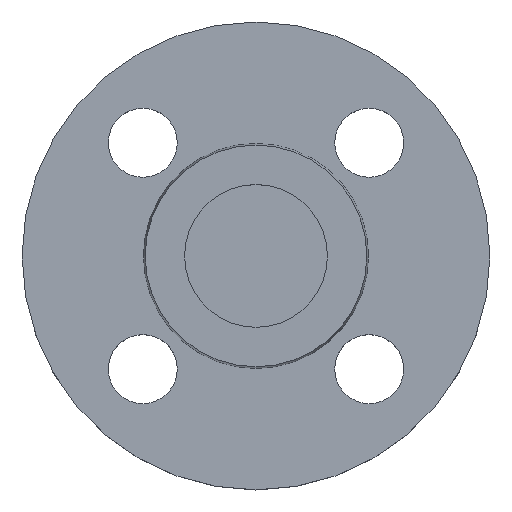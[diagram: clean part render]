
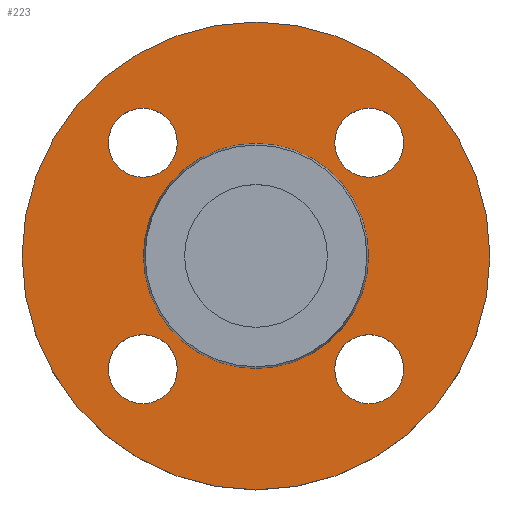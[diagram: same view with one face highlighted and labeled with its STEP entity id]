
A CAD part, top view. The second image highlights one B-rep face of the part: STEP entity #223.
In plain terms, the highlighted planar face has unit normal (0, 0, 1).
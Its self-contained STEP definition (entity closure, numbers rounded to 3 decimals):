
#10 = CIRCLE ( 'NONE', #11, 7. ) ;
#11 = AXIS2_PLACEMENT_3D ( 'NONE', #137, #138, #225 ) ;
#15 = CIRCLE ( 'NONE', #17, 7. ) ;
#17 = AXIS2_PLACEMENT_3D ( 'NONE', #413, #414, #415 ) ;
#26 = EDGE_CURVE ( 'NONE', #379, #279, #10, .T. ) ;
#27 = CIRCLE ( 'NONE', #30, 7. ) ;
#30 = AXIS2_PLACEMENT_3D ( 'NONE', #431, #432, #433 ) ;
#36 = CIRCLE ( 'NONE', #37, 22.853 ) ;
#37 = AXIS2_PLACEMENT_3D ( 'NONE', #449, #450, #451 ) ;
#57 = CIRCLE ( 'NONE', #59, 7. ) ;
#59 = AXIS2_PLACEMENT_3D ( 'NONE', #507, #508, #510 ) ;
#60 = AXIS2_PLACEMENT_3D ( 'NONE', #519, #520, #521 ) ;
#61 = CIRCLE ( 'NONE', #63, 22.853 ) ;
#63 = AXIS2_PLACEMENT_3D ( 'NONE', #522, #523, #524 ) ;
#66 = EDGE_CURVE ( 'NONE', #281, #249, #15, .T. ) ;
#75 = CIRCLE ( 'NONE', #79, 47.5 ) ;
#77 = EDGE_CURVE ( 'NONE', #271, #378, #27, .T. ) ;
#78 = CIRCLE ( 'NONE', #81, 7. ) ;
#79 = AXIS2_PLACEMENT_3D ( 'NONE', #564, #566, #567 ) ;
#80 = AXIS2_PLACEMENT_3D ( 'NONE', #578, #580, #581 ) ;
#81 = AXIS2_PLACEMENT_3D ( 'NONE', #568, #569, #570 ) ;
#83 = CIRCLE ( 'NONE', #80, 47.5 ) ;
#96 = EDGE_CURVE ( 'NONE', #255, #234, #36, .T. ) ;
#108 = CIRCLE ( 'NONE', #109, 7. ) ;
#109 = AXIS2_PLACEMENT_3D ( 'NONE', #154, #155, #156 ) ;
#116 = AXIS2_PLACEMENT_3D ( 'NONE', #157, #158, #159 ) ;
#127 = CIRCLE ( 'NONE', #116, 7. ) ;
#133 = CIRCLE ( 'NONE', #211, 7. ) ;
#137 = CARTESIAN_POINT ( 'NONE',  ( -22.981, -22.981, -2. ) ) ;
#138 = DIRECTION ( 'NONE',  ( 0., 0., -1. ) ) ;
#142 = CARTESIAN_POINT ( 'NONE',  ( 15.981, -22.981, -2. ) ) ;
#143 = CARTESIAN_POINT ( 'NONE',  ( 29.981, -22.981, -2. ) ) ;
#145 = CARTESIAN_POINT ( 'NONE',  ( -15.981, 22.981, -2. ) ) ;
#146 = CARTESIAN_POINT ( 'NONE',  ( -29.981, -22.981, -2. ) ) ;
#154 = CARTESIAN_POINT ( 'NONE',  ( 22.981, 22.981, -2. ) ) ;
#155 = DIRECTION ( 'NONE',  ( 0., 0., -1. ) ) ;
#156 = DIRECTION ( 'NONE',  ( 1., 0., 0. ) ) ;
#157 = CARTESIAN_POINT ( 'NONE',  ( 22.981, -22.981, -2. ) ) ;
#158 = DIRECTION ( 'NONE',  ( 0., 0., -1. ) ) ;
#159 = DIRECTION ( 'NONE',  ( 1., 0., 0. ) ) ;
#190 = EDGE_CURVE ( 'NONE', #371, #372, #57, .T. ) ;
#200 = CARTESIAN_POINT ( 'NONE',  ( -22.981, 22.981, -2. ) ) ;
#201 = DIRECTION ( 'NONE',  ( 0., 0., -1. ) ) ;
#202 = DIRECTION ( 'NONE',  ( 1., 0., 0. ) ) ;
#211 = AXIS2_PLACEMENT_3D ( 'NONE', #200, #201, #202 ) ;
#223 = ADVANCED_FACE ( 'NONE', ( #511, #512, #513, #515, #516, #517 ), #518, .T. ) ;
#225 = DIRECTION ( 'NONE',  ( 1., 0., 0. ) ) ;
#227 = EDGE_CURVE ( 'NONE', #234, #255, #61, .T. ) ;
#230 = VERTEX_POINT ( 'NONE', #528 ) ;
#233 = EDGE_LOOP ( 'NONE', ( #317, #318 ) ) ;
#234 = VERTEX_POINT ( 'NONE', #530 ) ;
#239 = EDGE_LOOP ( 'NONE', ( #311, #312 ) ) ;
#248 = VERTEX_POINT ( 'NONE', #535 ) ;
#249 = VERTEX_POINT ( 'NONE', #537 ) ;
#255 = VERTEX_POINT ( 'NONE', #547 ) ;
#267 = EDGE_LOOP ( 'NONE', ( #319, #320 ) ) ;
#271 = VERTEX_POINT ( 'NONE', #555 ) ;
#272 = EDGE_LOOP ( 'NONE', ( #315, #316 ) ) ;
#279 = VERTEX_POINT ( 'NONE', #556 ) ;
#281 = VERTEX_POINT ( 'NONE', #560 ) ;
#286 = EDGE_CURVE ( 'NONE', #230, #248, #75, .T. ) ;
#291 = EDGE_CURVE ( 'NONE', #279, #379, #78, .T. ) ;
#299 = EDGE_CURVE ( 'NONE', #248, #230, #83, .T. ) ;
#309 = ORIENTED_EDGE ( 'NONE', *, *, #390, .T. ) ;
#310 = ORIENTED_EDGE ( 'NONE', *, *, #190, .T. ) ;
#311 = ORIENTED_EDGE ( 'NONE', *, *, #291, .T. ) ;
#312 = ORIENTED_EDGE ( 'NONE', *, *, #26, .T. ) ;
#313 = ORIENTED_EDGE ( 'NONE', *, *, #565, .T. ) ;
#314 = ORIENTED_EDGE ( 'NONE', *, *, #77, .T. ) ;
#315 = ORIENTED_EDGE ( 'NONE', *, *, #388, .T. ) ;
#316 = ORIENTED_EDGE ( 'NONE', *, *, #66, .T. ) ;
#317 = ORIENTED_EDGE ( 'NONE', *, *, #96, .T. ) ;
#318 = ORIENTED_EDGE ( 'NONE', *, *, #227, .T. ) ;
#319 = ORIENTED_EDGE ( 'NONE', *, *, #286, .F. ) ;
#320 = ORIENTED_EDGE ( 'NONE', *, *, #299, .F. ) ;
#370 = EDGE_LOOP ( 'NONE', ( #309, #310 ) ) ;
#371 = VERTEX_POINT ( 'NONE', #142 ) ;
#372 = VERTEX_POINT ( 'NONE', #143 ) ;
#374 = EDGE_LOOP ( 'NONE', ( #313, #314 ) ) ;
#378 = VERTEX_POINT ( 'NONE', #145 ) ;
#379 = VERTEX_POINT ( 'NONE', #146 ) ;
#388 = EDGE_CURVE ( 'NONE', #249, #281, #108, .T. ) ;
#390 = EDGE_CURVE ( 'NONE', #372, #371, #127, .T. ) ;
#413 = CARTESIAN_POINT ( 'NONE',  ( 22.981, 22.981, -2. ) ) ;
#414 = DIRECTION ( 'NONE',  ( 0., 0., -1. ) ) ;
#415 = DIRECTION ( 'NONE',  ( 1., 0., 0. ) ) ;
#431 = CARTESIAN_POINT ( 'NONE',  ( -22.981, 22.981, -2. ) ) ;
#432 = DIRECTION ( 'NONE',  ( 0., 0., -1. ) ) ;
#433 = DIRECTION ( 'NONE',  ( 1., 0., 0. ) ) ;
#449 = CARTESIAN_POINT ( 'NONE',  ( 0., 0., -2. ) ) ;
#450 = DIRECTION ( 'NONE',  ( 0., 0., -1. ) ) ;
#451 = DIRECTION ( 'NONE',  ( -1., 0., 0. ) ) ;
#507 = CARTESIAN_POINT ( 'NONE',  ( 22.981, -22.981, -2. ) ) ;
#508 = DIRECTION ( 'NONE',  ( 0., 0., -1. ) ) ;
#510 = DIRECTION ( 'NONE',  ( 1., 0., 0. ) ) ;
#511 = FACE_BOUND ( 'NONE', #370, .T. ) ;
#512 = FACE_BOUND ( 'NONE', #239, .T. ) ;
#513 = FACE_BOUND ( 'NONE', #374, .T. ) ;
#515 = FACE_BOUND ( 'NONE', #272, .T. ) ;
#516 = FACE_BOUND ( 'NONE', #233, .T. ) ;
#517 = FACE_OUTER_BOUND ( 'NONE', #267, .T. ) ;
#518 = PLANE ( 'NONE',  #60 ) ;
#519 = CARTESIAN_POINT ( 'NONE',  ( 22.853, 0., -2. ) ) ;
#520 = DIRECTION ( 'NONE',  ( 0., 0., 1. ) ) ;
#521 = DIRECTION ( 'NONE',  ( 1., 0., 0. ) ) ;
#522 = CARTESIAN_POINT ( 'NONE',  ( 0., 0., -2. ) ) ;
#523 = DIRECTION ( 'NONE',  ( 0., 0., -1. ) ) ;
#524 = DIRECTION ( 'NONE',  ( -1., 0., 0. ) ) ;
#528 = CARTESIAN_POINT ( 'NONE',  ( 47.5, 0., -2. ) ) ;
#530 = CARTESIAN_POINT ( 'NONE',  ( 22.853, 0., -2. ) ) ;
#535 = CARTESIAN_POINT ( 'NONE',  ( -47.5, 0., -2. ) ) ;
#537 = CARTESIAN_POINT ( 'NONE',  ( 29.981, 22.981, -2. ) ) ;
#547 = CARTESIAN_POINT ( 'NONE',  ( -22.853, 0., -2. ) ) ;
#555 = CARTESIAN_POINT ( 'NONE',  ( -29.981, 22.981, -2. ) ) ;
#556 = CARTESIAN_POINT ( 'NONE',  ( -15.981, -22.981, -2. ) ) ;
#560 = CARTESIAN_POINT ( 'NONE',  ( 15.981, 22.981, -2. ) ) ;
#564 = CARTESIAN_POINT ( 'NONE',  ( 0., 0., -2. ) ) ;
#565 = EDGE_CURVE ( 'NONE', #378, #271, #133, .T. ) ;
#566 = DIRECTION ( 'NONE',  ( 0., 0., -1. ) ) ;
#567 = DIRECTION ( 'NONE',  ( -1., 0., 0. ) ) ;
#568 = CARTESIAN_POINT ( 'NONE',  ( -22.981, -22.981, -2. ) ) ;
#569 = DIRECTION ( 'NONE',  ( 0., 0., -1. ) ) ;
#570 = DIRECTION ( 'NONE',  ( 1., 0., 0. ) ) ;
#578 = CARTESIAN_POINT ( 'NONE',  ( 0., 0., -2. ) ) ;
#580 = DIRECTION ( 'NONE',  ( 0., 0., -1. ) ) ;
#581 = DIRECTION ( 'NONE',  ( -1., 0., 0. ) ) ;
